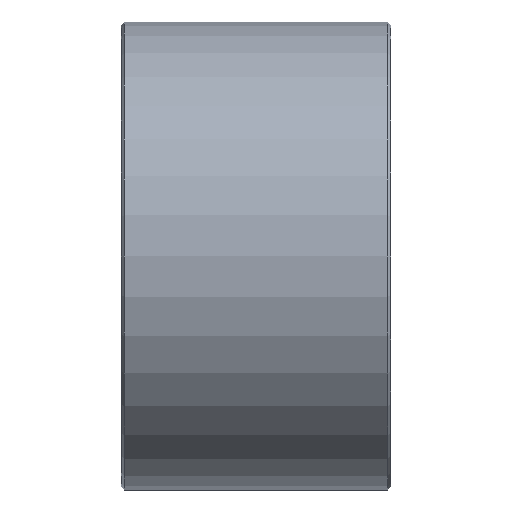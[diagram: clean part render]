
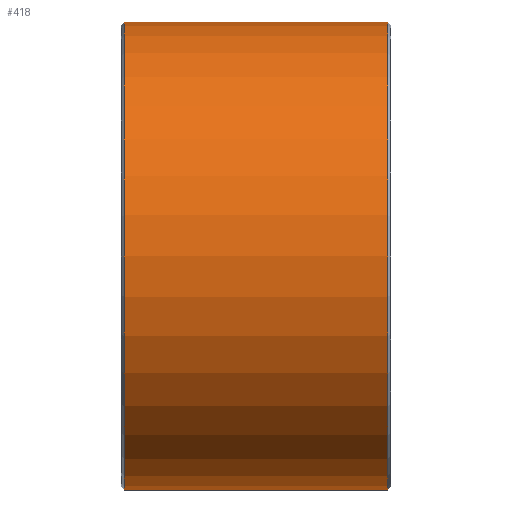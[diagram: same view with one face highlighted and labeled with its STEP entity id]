
A CAD part, front view. The second image highlights one B-rep face of the part: STEP entity #418.
In plain terms, the highlighted cylindrical face has radius 52.05 mm (diameter 104.1 mm), a full revolution.
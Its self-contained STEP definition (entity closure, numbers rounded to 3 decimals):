
#13=B_SPLINE_CURVE_WITH_KNOTS('',3,(#676,#677,#678,#679,#680,#681,#682,
#683,#684,#685,#686,#687,#688,#689,#690,#691,#692,#693,#694,#695,#696,#697),
 .UNSPECIFIED.,.F.,.F.,(4,2,2,2,2,2,2,2,2,2,4),(0.,0.196,0.392,
0.588,0.784,0.98,1.176,
1.372,1.568,1.764,1.95),
 .UNSPECIFIED.);
#14=B_SPLINE_CURVE_WITH_KNOTS('',3,(#698,#699,#700,#701,#702,#703),
 .UNSPECIFIED.,.F.,.F.,(4,2,4),(2.755,2.94,3.136),
 .UNSPECIFIED.);
#15=B_SPLINE_CURVE_WITH_KNOTS('',3,(#715,#716,#717,#718,#719,#720,#721,
#722,#723,#724,#725,#726,#727,#728,#729,#730,#731,#732,#733,#734,#735,#736),
 .UNSPECIFIED.,.F.,.F.,(4,2,2,2,2,2,2,2,2,2,4),(1.187,1.372,
1.568,1.764,1.96,2.156,2.352,
2.548,2.744,2.94,3.136),
 .UNSPECIFIED.);
#16=B_SPLINE_CURVE_WITH_KNOTS('',3,(#737,#738,#739,#740,#741,#742),
 .UNSPECIFIED.,.F.,.F.,(4,2,4),(0.,0.196,0.382),
 .UNSPECIFIED.);
#21=LINE('',#651,#33);
#22=LINE('',#654,#34);
#26=LINE('',#664,#38);
#30=LINE('',#671,#42);
#33=VECTOR('',#518,24.949);
#34=VECTOR('',#521,9.846);
#38=VECTOR('',#531,24.949);
#42=VECTOR('',#537,9.846);
#66=FACE_OUTER_BOUND('',#136,.T.);
#82=CYLINDRICAL_SURFACE('',#462,52.05);
#97=FACE_BOUND('',#137,.T.);
#98=FACE_BOUND('',#138,.T.);
#136=EDGE_LOOP('',(#317));
#137=EDGE_LOOP('',(#318,#319,#320,#321,#322,#323,#324,#325));
#138=EDGE_LOOP('',(#326));
#178=CIRCLE('',#463,52.05);
#179=CIRCLE('',#464,52.05);
#193=VERTEX_POINT('',#620);
#195=VERTEX_POINT('',#625);
#200=VERTEX_POINT('',#649);
#201=VERTEX_POINT('',#653);
#204=VERTEX_POINT('',#663);
#206=VERTEX_POINT('',#669);
#207=VERTEX_POINT('',#675);
#211=VERTEX_POINT('',#712);
#212=VERTEX_POINT('',#714);
#213=VERTEX_POINT('',#743);
#238=EDGE_CURVE('',#193,#200,#21,.T.);
#239=EDGE_CURVE('',#201,#193,#22,.T.);
#244=EDGE_CURVE('',#204,#195,#26,.T.);
#248=EDGE_CURVE('',#195,#206,#30,.T.);
#250=EDGE_CURVE('',#207,#204,#13,.T.);
#251=EDGE_CURVE('',#200,#207,#14,.T.);
#255=EDGE_CURVE('',#211,#211,#178,.T.);
#256=EDGE_CURVE('',#206,#212,#15,.T.);
#257=EDGE_CURVE('',#212,#201,#16,.T.);
#258=EDGE_CURVE('',#213,#213,#179,.T.);
#317=ORIENTED_EDGE('',*,*,#255,.T.);
#318=ORIENTED_EDGE('',*,*,#238,.T.);
#319=ORIENTED_EDGE('',*,*,#251,.T.);
#320=ORIENTED_EDGE('',*,*,#250,.T.);
#321=ORIENTED_EDGE('',*,*,#244,.T.);
#322=ORIENTED_EDGE('',*,*,#248,.T.);
#323=ORIENTED_EDGE('',*,*,#256,.T.);
#324=ORIENTED_EDGE('',*,*,#257,.T.);
#325=ORIENTED_EDGE('',*,*,#239,.T.);
#326=ORIENTED_EDGE('',*,*,#258,.F.);
#418=ADVANCED_FACE('',(#66,#97,#98),#82,.T.);
#462=AXIS2_PLACEMENT_3D('',#711,#552,#553);
#463=AXIS2_PLACEMENT_3D('',#713,#554,#555);
#464=AXIS2_PLACEMENT_3D('',#744,#556,#557);
#518=DIRECTION('',(1.,0.,0.));
#521=DIRECTION('',(1.,0.,0.));
#531=DIRECTION('',(-1.,0.,0.));
#537=DIRECTION('',(-1.,0.,0.));
#552=DIRECTION('center_axis',(1.,0.,0.));
#553=DIRECTION('ref_axis',(0.,1.,0.));
#554=DIRECTION('center_axis',(1.,0.,0.));
#555=DIRECTION('ref_axis',(0.,1.,0.));
#556=DIRECTION('center_axis',(1.,0.,0.));
#557=DIRECTION('ref_axis',(0.,1.,0.));
#620=CARTESIAN_POINT('',(-7.552,51.915,-3.75));
#625=CARTESIAN_POINT('',(-7.552,51.915,3.75));
#649=CARTESIAN_POINT('',(17.398,51.915,-3.75));
#651=CARTESIAN_POINT('',(0.,51.915,-3.75));
#653=CARTESIAN_POINT('',(-17.398,51.915,-3.75));
#654=CARTESIAN_POINT('',(0.,51.915,-3.75));
#663=CARTESIAN_POINT('',(17.398,51.915,3.75));
#664=CARTESIAN_POINT('',(0.,51.915,3.75));
#669=CARTESIAN_POINT('',(-17.398,51.915,3.75));
#671=CARTESIAN_POINT('',(0.,51.915,3.75));
#675=CARTESIAN_POINT('',(21.,51.79,-5.2));
#676=CARTESIAN_POINT('Ctrl Pts',(21.,51.79,-5.2));
#677=CARTESIAN_POINT('Ctrl Pts',(21.653,51.79,-5.2));
#678=CARTESIAN_POINT('Ctrl Pts',(22.35,51.803,-5.069));
#679=CARTESIAN_POINT('Ctrl Pts',(23.631,51.852,-4.539));
#680=CARTESIAN_POINT('Ctrl Pts',(24.216,51.887,-4.138));
#681=CARTESIAN_POINT('Ctrl Pts',(25.138,51.953,-3.216));
#682=CARTESIAN_POINT('Ctrl Pts',(25.539,51.987,-2.631));
#683=CARTESIAN_POINT('Ctrl Pts',(26.069,52.036,-1.35));
#684=CARTESIAN_POINT('Ctrl Pts',(26.2,52.05,-0.653));
#685=CARTESIAN_POINT('Ctrl Pts',(26.2,52.05,0.653));
#686=CARTESIAN_POINT('Ctrl Pts',(26.069,52.036,1.35));
#687=CARTESIAN_POINT('Ctrl Pts',(25.539,51.987,2.631));
#688=CARTESIAN_POINT('Ctrl Pts',(25.138,51.953,3.216));
#689=CARTESIAN_POINT('Ctrl Pts',(24.216,51.887,4.138));
#690=CARTESIAN_POINT('Ctrl Pts',(23.631,51.852,4.539));
#691=CARTESIAN_POINT('Ctrl Pts',(22.35,51.803,5.069));
#692=CARTESIAN_POINT('Ctrl Pts',(21.653,51.79,5.2));
#693=CARTESIAN_POINT('Ctrl Pts',(20.347,51.79,5.2));
#694=CARTESIAN_POINT('Ctrl Pts',(19.65,51.803,5.069));
#695=CARTESIAN_POINT('Ctrl Pts',(18.403,51.851,4.553));
#696=CARTESIAN_POINT('Ctrl Pts',(17.846,51.884,4.181));
#697=CARTESIAN_POINT('Ctrl Pts',(17.398,51.915,3.75));
#698=CARTESIAN_POINT('Ctrl Pts',(17.398,51.915,-3.75));
#699=CARTESIAN_POINT('Ctrl Pts',(17.846,51.884,-4.181));
#700=CARTESIAN_POINT('Ctrl Pts',(18.403,51.851,-4.553));
#701=CARTESIAN_POINT('Ctrl Pts',(19.65,51.803,-5.069));
#702=CARTESIAN_POINT('Ctrl Pts',(20.347,51.79,-5.2));
#703=CARTESIAN_POINT('Ctrl Pts',(21.,51.79,-5.2));
#711=CARTESIAN_POINT('Origin',(0.,0.,0.));
#712=CARTESIAN_POINT('',(-29.293,52.05,0.));
#713=CARTESIAN_POINT('Origin',(-29.293,0.,0.));
#714=CARTESIAN_POINT('',(-21.,51.79,-5.2));
#715=CARTESIAN_POINT('Ctrl Pts',(-17.398,51.915,3.75));
#716=CARTESIAN_POINT('Ctrl Pts',(-17.846,51.884,4.181));
#717=CARTESIAN_POINT('Ctrl Pts',(-18.403,51.851,4.553));
#718=CARTESIAN_POINT('Ctrl Pts',(-19.65,51.803,5.069));
#719=CARTESIAN_POINT('Ctrl Pts',(-20.347,51.79,5.2));
#720=CARTESIAN_POINT('Ctrl Pts',(-21.653,51.79,5.2));
#721=CARTESIAN_POINT('Ctrl Pts',(-22.35,51.803,5.069));
#722=CARTESIAN_POINT('Ctrl Pts',(-23.631,51.852,4.539));
#723=CARTESIAN_POINT('Ctrl Pts',(-24.216,51.887,4.138));
#724=CARTESIAN_POINT('Ctrl Pts',(-25.138,51.953,3.216));
#725=CARTESIAN_POINT('Ctrl Pts',(-25.539,51.987,2.631));
#726=CARTESIAN_POINT('Ctrl Pts',(-26.069,52.036,1.35));
#727=CARTESIAN_POINT('Ctrl Pts',(-26.2,52.05,0.653));
#728=CARTESIAN_POINT('Ctrl Pts',(-26.2,52.05,-0.653));
#729=CARTESIAN_POINT('Ctrl Pts',(-26.069,52.036,-1.35));
#730=CARTESIAN_POINT('Ctrl Pts',(-25.539,51.987,-2.631));
#731=CARTESIAN_POINT('Ctrl Pts',(-25.138,51.953,-3.216));
#732=CARTESIAN_POINT('Ctrl Pts',(-24.216,51.887,-4.138));
#733=CARTESIAN_POINT('Ctrl Pts',(-23.631,51.852,-4.539));
#734=CARTESIAN_POINT('Ctrl Pts',(-22.35,51.803,-5.069));
#735=CARTESIAN_POINT('Ctrl Pts',(-21.653,51.79,-5.2));
#736=CARTESIAN_POINT('Ctrl Pts',(-21.,51.79,-5.2));
#737=CARTESIAN_POINT('Ctrl Pts',(-21.,51.79,-5.2));
#738=CARTESIAN_POINT('Ctrl Pts',(-20.347,51.79,-5.2));
#739=CARTESIAN_POINT('Ctrl Pts',(-19.65,51.803,-5.069));
#740=CARTESIAN_POINT('Ctrl Pts',(-18.403,51.851,-4.553));
#741=CARTESIAN_POINT('Ctrl Pts',(-17.846,51.884,-4.181));
#742=CARTESIAN_POINT('Ctrl Pts',(-17.398,51.915,-3.75));
#743=CARTESIAN_POINT('',(29.293,52.05,0.));
#744=CARTESIAN_POINT('Origin',(29.293,0.,0.));
